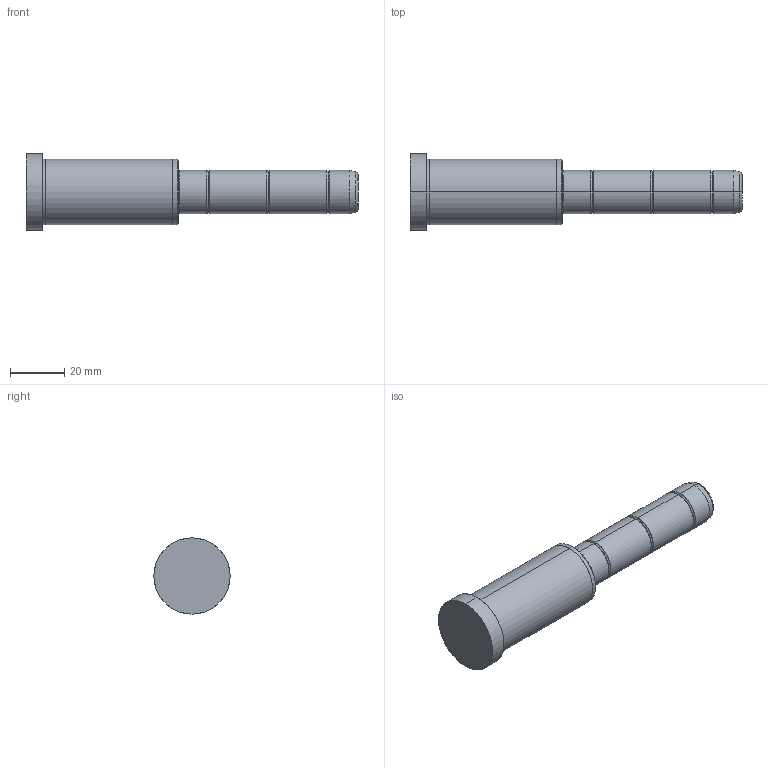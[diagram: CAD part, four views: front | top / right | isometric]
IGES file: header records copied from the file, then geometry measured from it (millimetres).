
Start section: SolidWorks IGES file using analytic representation for surfaces
Global section: file name: C:\Documents and Settings\kalite-mail\Desktop\IGS\D02\16\D02 - 16x56x66.IGS; native system: SolidWorks 2008; preprocessor: SolidWorks 2008; author: kalite-mail; date: 080616.143811; units: millimetre
Bounding box: 122 x 28 x 28 mm (x, y, z)
Surface area: 8843.4 mm2 (no closed solid volume)
Topology: 0 solids, 0 shells, 42 faces, 528 edges, 528 vertices
Faces by surface type: bspline 22, revolution 20
